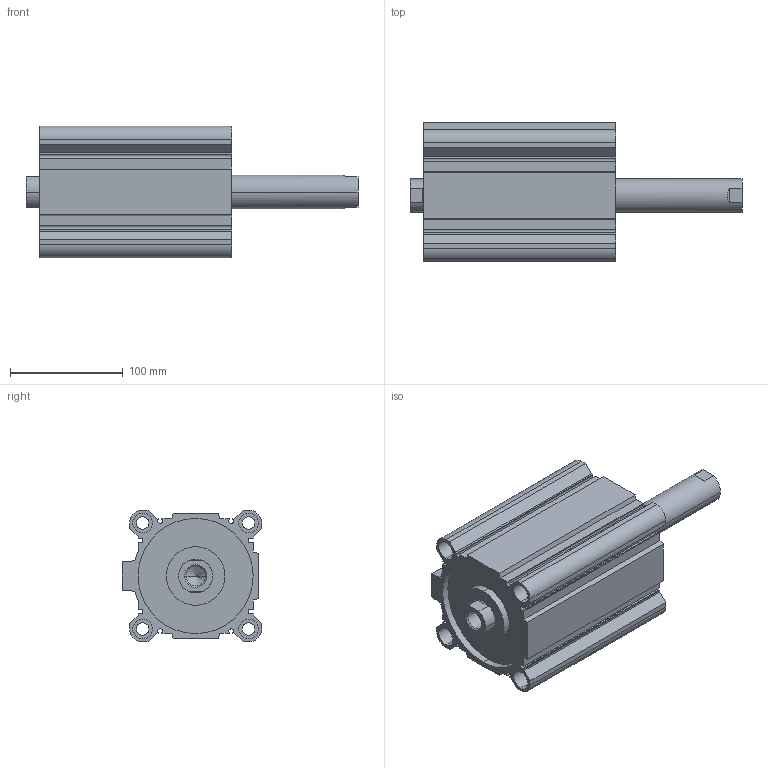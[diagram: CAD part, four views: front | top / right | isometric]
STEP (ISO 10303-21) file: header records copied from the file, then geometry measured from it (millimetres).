
FILE_DESCRIPTION (( 'STEP AP203' ), '1' );
FILE_NAME ('CCMB100-100F-P.STEP', '2020-08-05T11:56:01', ( '' ), ( '' ), 'SwSTEP 2.0', 'SolidWorks 2019', '' );
FILE_SCHEMA (( 'CONFIG_CONTROL_DESIGN' ));
Length unit declared in the file: millimetre
Products named in the file (1): CCMB100-100F-P
Bounding box: 294.5 x 123.5 x 117 mm (x, y, z)
Volume: 1258571.6 mm3; surface area: 274957.2 mm2
Topology: 2 solids, 2 shells, 178 faces, 456 edges, 298 vertices
Faces by surface type: plane 90, cylinder 76, cone 12
Entity records: 5495 total; most frequent: DIRECTION 970, CARTESIAN_POINT 941, ORIENTED_EDGE 904, EDGE_CURVE 452, AXIS2_PLACEMENT_3D 343, VERTEX_POINT 298, LINE 284, VECTOR 284
